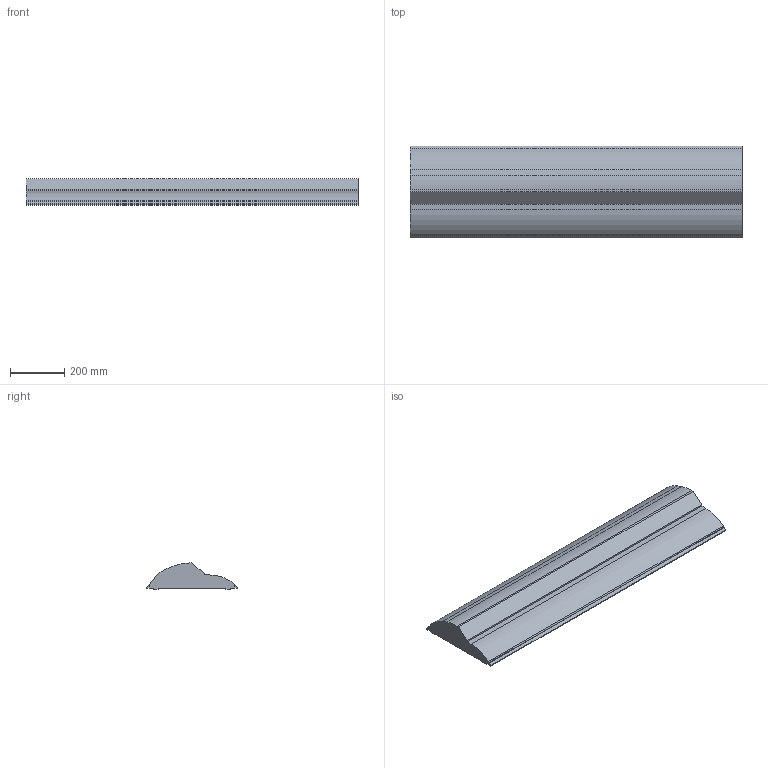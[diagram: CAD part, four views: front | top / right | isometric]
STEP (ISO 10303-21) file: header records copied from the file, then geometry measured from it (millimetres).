
FILE_DESCRIPTION(/* description */ ('Unknown'),/* implementation_level */ '2;1');
FILE_NAME(/* name */ '3D_Footsie2_w_diffuser',/* time_stamp */ '2024-05-16T08:08:15+02:00',/* author */ ('vaclavek'),/* organization */ ('ROBE lighting s.r.o.'),/* preprocessor_version */ 'ST-DEVELOPER v19.4',/* originating_system */ 'Solid Edge',/* authorisation */ 'Unknown');
FILE_SCHEMA (('AUTOMOTIVE_DESIGN {1 0 10303 214 3 1 1}'));
Length unit declared in the file: millimetre
Products named in the file (1): 3D_Footsie2
Bounding box: 1229 x 338.56 x 96.46 mm (x, y, z)
Volume: 24180648.2 mm3; surface area: 978294.6 mm2
Topology: 1 solids, 1 shells, 29 faces, 81 edges, 54 vertices
Faces by surface type: plane 18, cylinder 11
Entity records: 967 total; most frequent: CARTESIAN_POINT 165, DIRECTION 163, ORIENTED_EDGE 162, EDGE_CURVE 81, LINE 59, VECTOR 59, VERTEX_POINT 54, AXIS2_PLACEMENT_3D 52
